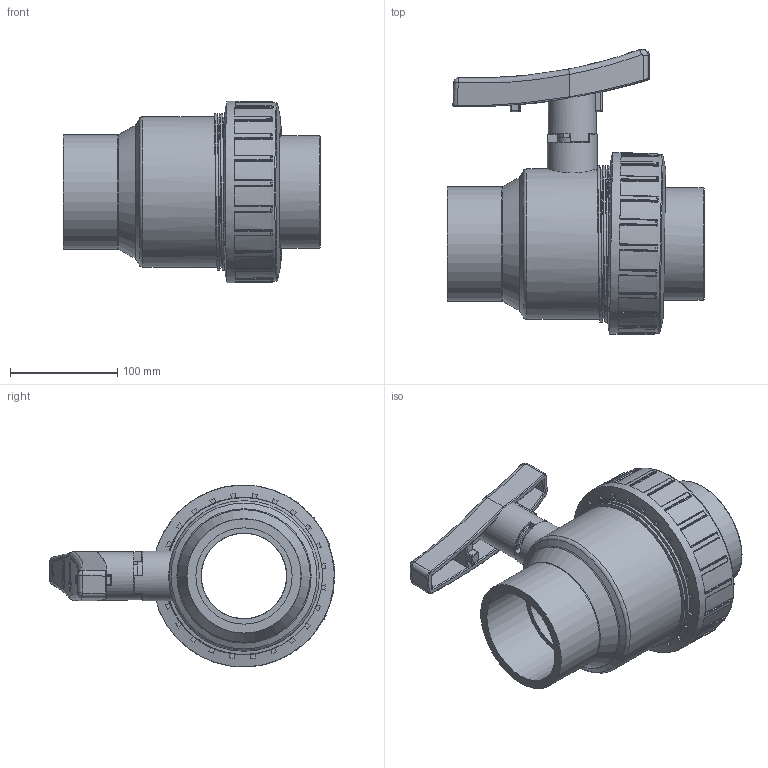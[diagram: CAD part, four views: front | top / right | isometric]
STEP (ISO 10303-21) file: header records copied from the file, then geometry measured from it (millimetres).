
FILE_DESCRIPTION(/* description */ (''),/* implementation_level */ '2;1');
FILE_NAME(/* name */ 'C:\ex desktop\VALVOLE SFERA\BV ACQUA\VALVOLE BVS MM\BVS40\BVS40090\BVS40090_new_handle.stp',/* time_stamp */ '2019-04-17T10:20:03+02:00',/* author */ ('e.sacchi'),/* organization */ (''),/* preprocessor_version */ 'ST-DEVELOPER v16.13',/* originating_system */ 'Autodesk Inventor 2018',/* authorisation */ '');
FILE_SCHEMA (('AUTOMOTIVE_DESIGN { 1 0 10303 214 3 1 1 }'));
Length unit declared in the file: millimetre
Products named in the file (13): BVS100900; CORPO_BVS_10_d_90; LAV4087E; asta_BVI_10_d_90; sfera_BVI_10_d_90; supporto_BVD_40_d_90; LAV4350ESOTTOPTFE; PTFE_BVI_10_d_90; LAV4450E; Parte2; collare_BVI_10_d_90; LAV6362E; ghiera_BVI_10_d_90
Assembly tree (15 placements, depth 2):
  BVS100900
    CORPO_BVS_10_d_90
    LAV4350ESOTTOPTFE  x2
    PTFE_BVI_10_d_90  x2
    LAV4087E  x2
    asta_BVI_10_d_90
    sfera_BVI_10_d_90
    supporto_BVD_40_d_90
    LAV4450E
    Parte2
    collare_BVI_10_d_90
    LAV6362E
    ghiera_BVI_10_d_90
Bounding box: 240.5 x 266.81 x 170.01 mm (x, y, z)
Volume: 2015103.5 mm3; surface area: 576078.1 mm2
Topology: 18 solids, 18 shells, 1538 faces, 3913 edges, 2476 vertices
Faces by surface type: plane 612, bspline 379, cylinder 332, torus 130, sphere 55, cone 30
Full cylindrical faces by diameter (mm): 12 x1, 13.4 x1, 23.333 x1, 23.9 x1, 27.3 x4, 28 x1, 34.6 x1, 45 x1, 46.5 x1, 80 x4, 88 x2, 90 x2, 94 x1, 95 x4, 105.5 x1, 106 x1, 106.6 x1, 117.559 x2, 122.47 x1, 124.5 x1, 126 x2, 128.5 x2, 140.5 x9, 147 x7, 167 x1, 170 x1
Entity records: 60420 total; most frequent: CARTESIAN_POINT 25209, ORIENTED_EDGE 7586, DIRECTION 6667, EDGE_CURVE 3791, AXIS2_PLACEMENT_3D 2462, VERTEX_POINT 2432, LINE 1743, VECTOR 1743
